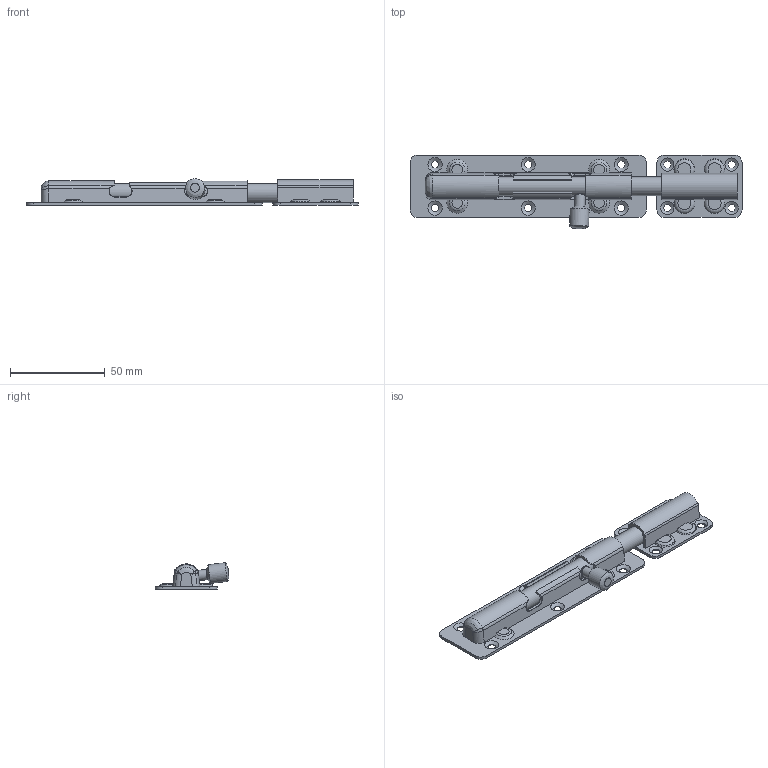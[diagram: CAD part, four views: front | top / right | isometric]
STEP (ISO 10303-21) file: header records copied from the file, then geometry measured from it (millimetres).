
FILE_DESCRIPTION(/* description */ (''),/* implementation_level */ '2;1');
FILE_NAME(/* name */ '\\NAS\db20\ODS1-6S\DR_ODS1-6S.stp',/* time_stamp */ '2017-09-01T10:46:58+09:00',/* author */ ('user'),/* organization */ (''),/* preprocessor_version */ 'ST-DEVELOPER v15.6',/* originating_system */ 'Autodesk Inventor 2015',/* authorisation */ '');
FILE_SCHEMA (('AUTOMOTIVE_DESIGN { 1 0 10303 214 3 1 1 }'));
Length unit declared in the file: millimetre
Products named in the file (4): DR_ODS1-6-BR; DR_ODS1-6-C; DR_ODS1-6-P; DR_ODS1-6S
Bounding box: 175.63 x 39.05 x 14.17 mm (x, y, z)
Volume: 24170.9 mm3; surface area: 24961.2 mm2
Topology: 5 solids, 5 shells, 390 faces, 1024 edges, 621 vertices
Faces by surface type: plane 136, cylinder 113, bspline 58, torus 32, cone 27, sphere 24
Full cylindrical faces by diameter (mm): 4 x10, 5.5 x1, 10 x2
Entity records: 13676 total; most frequent: CARTESIAN_POINT 4452, ORIENTED_EDGE 1930, DIRECTION 1867, EDGE_CURVE 965, AXIS2_PLACEMENT_3D 718, VERTEX_POINT 608, EDGE_LOOP 451, LINE 431
